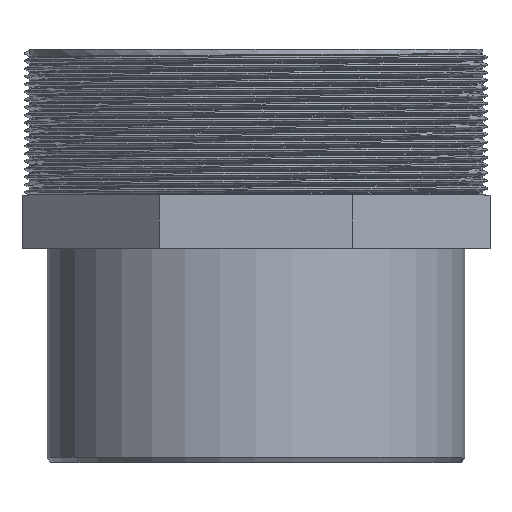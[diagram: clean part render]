
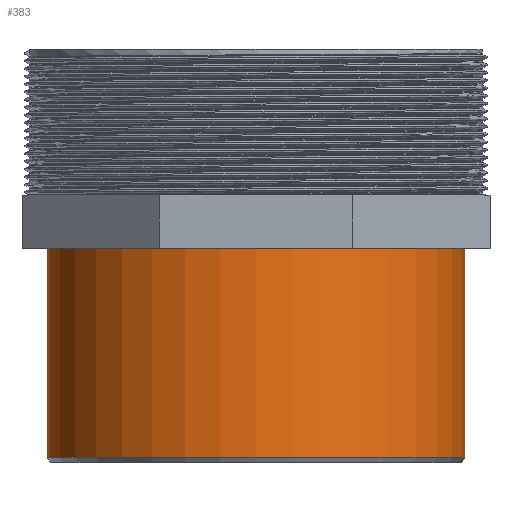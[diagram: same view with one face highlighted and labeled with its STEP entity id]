
A CAD part, top view. The second image highlights one B-rep face of the part: STEP entity #383.
In plain terms, the highlighted cylindrical face has radius 62.5 mm (diameter 125 mm), a full revolution.
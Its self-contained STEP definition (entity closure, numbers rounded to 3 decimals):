
#100=CYLINDRICAL_SURFACE('',#413,62.5);
#106=FACE_BOUND('',#145,.T.);
#117=FACE_OUTER_BOUND('',#144,.T.);
#144=EDGE_LOOP('',(#281));
#145=EDGE_LOOP('',(#282));
#179=CIRCLE('',#411,62.5);
#181=CIRCLE('',#414,62.5);
#192=VERTEX_POINT('',#543);
#194=VERTEX_POINT('',#548);
#228=EDGE_CURVE('',#192,#192,#179,.T.);
#230=EDGE_CURVE('',#194,#194,#181,.T.);
#281=ORIENTED_EDGE('',*,*,#230,.F.);
#282=ORIENTED_EDGE('',*,*,#228,.F.);
#383=ADVANCED_FACE('',(#117,#106),#100,.T.);
#411=AXIS2_PLACEMENT_3D('',#544,#448,#449);
#413=AXIS2_PLACEMENT_3D('',#547,#452,#453);
#414=AXIS2_PLACEMENT_3D('',#549,#454,#455);
#448=DIRECTION('center_axis',(0.,-1.,0.));
#449=DIRECTION('ref_axis',(-1.,0.,0.));
#452=DIRECTION('center_axis',(0.,-1.,0.));
#453=DIRECTION('ref_axis',(-1.,0.,0.));
#454=DIRECTION('center_axis',(0.,1.,0.));
#455=DIRECTION('ref_axis',(-1.,0.,0.));
#543=CARTESIAN_POINT('',(62.5,-70.5,0.));
#544=CARTESIAN_POINT('Origin',(0.,-70.5,0.));
#547=CARTESIAN_POINT('Origin',(0.,-8.,0.));
#548=CARTESIAN_POINT('',(62.5,-8.,0.));
#549=CARTESIAN_POINT('Origin',(0.,-8.,0.));
